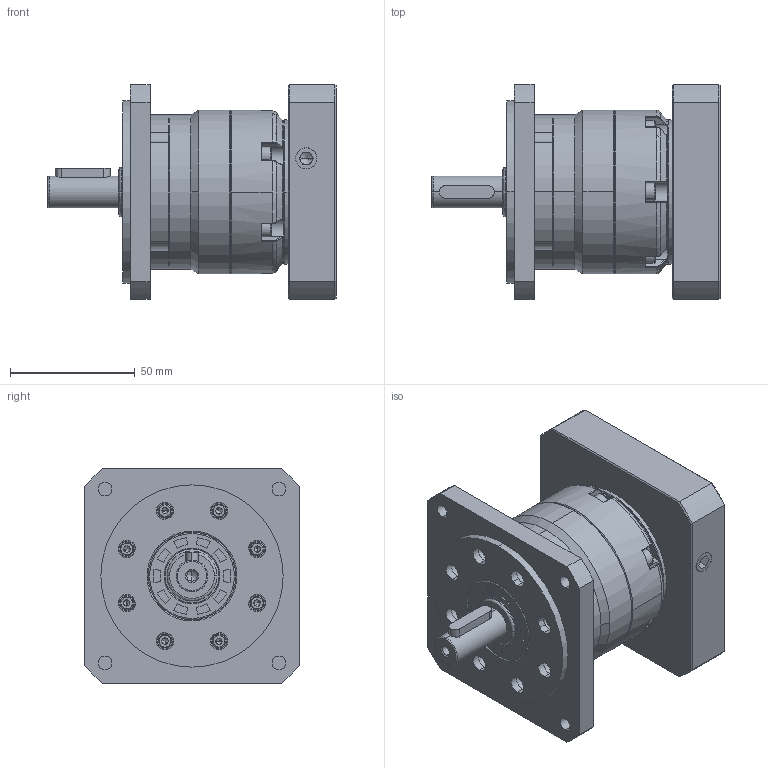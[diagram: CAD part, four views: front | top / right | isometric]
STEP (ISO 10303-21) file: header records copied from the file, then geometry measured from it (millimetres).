
FILE_DESCRIPTION (( 'STEP AP203' ), '1' );
FILE_NAME ('FGA060D-L1-12.7-73-98.5-M5-¶¨ÖÆ.STEP', '2022-06-30T02:16:04', ( 'User' ), ( 'China' ), 'SwSTEP 2.0', 'SolidWorks 2020', '' );
FILE_SCHEMA (( 'CONFIG_CONTROL_DESIGN' ));
Length unit declared in the file: millimetre
Products named in the file (15): hexagon socket head cap screws gb_GB_FASTENER_SCREWS_HSHCS M3X12-N; FGA060D-L1-12.7-73-98.5-M5-隅秶; 坶踡遠18-37-12(1)_1; FAB060D怀堤俴陎殤12.7(瑩5)-28.5-M5; 输入法兰FAB060D-73X21XM5(98.5); 输入太阳齿轮060D-14_2; 3-输入端壳体FAD064D_2; hexagon socket head cap screws gb_GB_FASTENER_SCREWS_HSHCS M4X16-N_2; 8-怀堤傷褲极FGA060; 蚐猾20355_1; A倰す瑩5x22; hex socket set screws with cone point gb_GB_FASTENER_SCREWS_HSCP M10X10-N_3; FG060齿圈_1; hexagon socket head cap screws gb_GB_FASTENER_SCREWS_HSHCS M4X12-N; 覃淕杶14-12.7
Assembly tree (29 placements, depth 2):
  FGA060D-L1-12.7-73-98.5-M5-隅秶
    输入太阳齿轮060D-14_2
    坶踡遠18-37-12(1)_1
    3-输入端壳体FAD064D_2
    FG060齿圈_1
    蚐猾20355_1
    hexagon socket head cap screws gb_GB_FASTENER_SCREWS_HSHCS M4X16-N_2  x4
    hex socket set screws with cone point gb_GB_FASTENER_SCREWS_HSCP M10X10-N_3
    hexagon socket head cap screws gb_GB_FASTENER_SCREWS_HSHCS M3X12-N  x8
    hexagon socket head cap screws gb_GB_FASTENER_SCREWS_HSHCS M4X12-N  x6
    A倰す瑩5x22
    8-怀堤傷褲极FGA060
    输入法兰FAB060D-73X21XM5(98.5)
    FAB060D怀堤俴陎殤12.7(瑩5)-28.5-M5
    覃淕杶14-12.7
Bounding box: 115.5 x 86 x 86 mm (x, y, z)
Volume: 347563.9 mm3; surface area: 96980.5 mm2
Topology: 30 solids, 31 shells, 1093 faces, 2567 edges, 1572 vertices
Faces by surface type: plane 453, cylinder 358, cone 164, torus 61, bspline 55, sphere 2
Entity records: 25009 total; most frequent: CARTESIAN_POINT 6105, DIRECTION 3734, ORIENTED_EDGE 3406, EDGE_CURVE 1703, AXIS2_PLACEMENT_3D 1515, VERTEX_POINT 1075, EDGE_LOOP 832, CIRCLE 820
